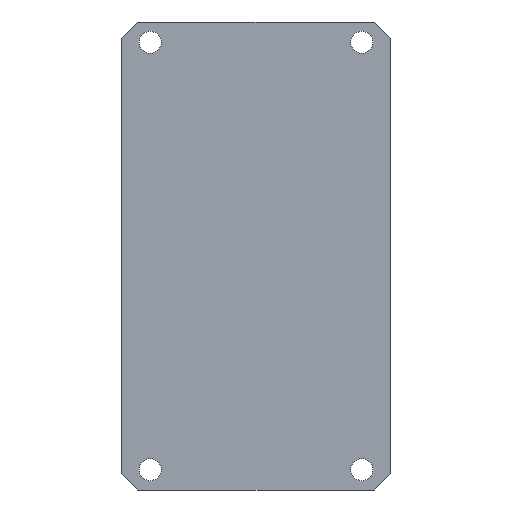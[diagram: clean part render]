
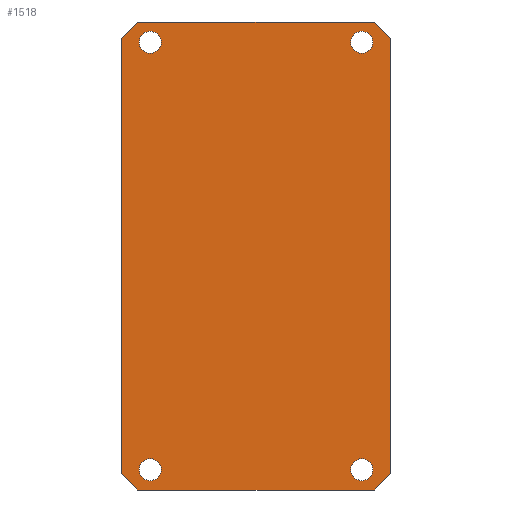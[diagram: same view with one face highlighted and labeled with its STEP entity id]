
A CAD part, front view. The second image highlights one B-rep face of the part: STEP entity #1518.
In plain terms, the highlighted planar face has unit normal (0, -1, 0).
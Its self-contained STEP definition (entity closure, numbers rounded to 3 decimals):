
#34=FACE_BOUND('',#525,.T.);
#35=FACE_BOUND('',#526,.T.);
#36=FACE_BOUND('',#527,.T.);
#37=FACE_BOUND('',#528,.T.);
#66=LINE('',#2228,#242);
#70=LINE('',#2237,#246);
#104=LINE('',#2316,#280);
#105=LINE('',#2319,#281);
#108=LINE('',#2324,#284);
#109=LINE('',#2327,#285);
#110=LINE('',#2328,#286);
#111=LINE('',#2329,#287);
#242=VECTOR('',#1793,10.);
#246=VECTOR('',#1799,10.);
#280=VECTOR('',#1857,10.);
#281=VECTOR('',#1860,10.);
#284=VECTOR('',#1865,10.);
#285=VECTOR('',#1868,10.);
#286=VECTOR('',#1869,10.);
#287=VECTOR('',#1870,10.);
#429=FACE_OUTER_BOUND('',#524,.T.);
#524=EDGE_LOOP('',(#1083,#1084,#1085,#1086,#1087,#1088,#1089,#1090));
#525=EDGE_LOOP('',(#1091));
#526=EDGE_LOOP('',(#1092));
#527=EDGE_LOOP('',(#1093));
#528=EDGE_LOOP('',(#1094));
#602=CIRCLE('',#1625,1.35);
#604=CIRCLE('',#1628,1.35);
#606=CIRCLE('',#1631,1.35);
#608=CIRCLE('',#1634,1.35);
#642=VERTEX_POINT('',#2197);
#644=VERTEX_POINT('',#2203);
#646=VERTEX_POINT('',#2209);
#648=VERTEX_POINT('',#2215);
#651=VERTEX_POINT('',#2222);
#653=VERTEX_POINT('',#2226);
#655=VERTEX_POINT('',#2231);
#657=VERTEX_POINT('',#2235);
#690=VERTEX_POINT('',#2314);
#691=VERTEX_POINT('',#2318);
#692=VERTEX_POINT('',#2322);
#693=VERTEX_POINT('',#2326);
#786=EDGE_CURVE('',#642,#642,#602,.T.);
#789=EDGE_CURVE('',#644,#644,#604,.T.);
#792=EDGE_CURVE('',#646,#646,#606,.T.);
#795=EDGE_CURVE('',#648,#648,#608,.T.);
#801=EDGE_CURVE('',#653,#651,#66,.T.);
#805=EDGE_CURVE('',#657,#655,#70,.T.);
#843=EDGE_CURVE('',#690,#657,#104,.T.);
#844=EDGE_CURVE('',#655,#691,#105,.T.);
#847=EDGE_CURVE('',#692,#653,#108,.T.);
#848=EDGE_CURVE('',#651,#693,#109,.T.);
#849=EDGE_CURVE('',#691,#692,#110,.T.);
#850=EDGE_CURVE('',#693,#690,#111,.T.);
#1083=ORIENTED_EDGE('',*,*,#848,.F.);
#1084=ORIENTED_EDGE('',*,*,#801,.F.);
#1085=ORIENTED_EDGE('',*,*,#847,.F.);
#1086=ORIENTED_EDGE('',*,*,#849,.F.);
#1087=ORIENTED_EDGE('',*,*,#844,.F.);
#1088=ORIENTED_EDGE('',*,*,#805,.F.);
#1089=ORIENTED_EDGE('',*,*,#843,.F.);
#1090=ORIENTED_EDGE('',*,*,#850,.F.);
#1091=ORIENTED_EDGE('',*,*,#792,.T.);
#1092=ORIENTED_EDGE('',*,*,#795,.T.);
#1093=ORIENTED_EDGE('',*,*,#786,.T.);
#1094=ORIENTED_EDGE('',*,*,#789,.T.);
#1440=PLANE('',#1652);
#1518=ADVANCED_FACE('',(#429,#34,#35,#36,#37),#1440,.F.);
#1625=AXIS2_PLACEMENT_3D('',#2198,#1762,#1763);
#1628=AXIS2_PLACEMENT_3D('',#2204,#1769,#1770);
#1631=AXIS2_PLACEMENT_3D('',#2210,#1776,#1777);
#1634=AXIS2_PLACEMENT_3D('',#2216,#1783,#1784);
#1652=AXIS2_PLACEMENT_3D('',#2325,#1866,#1867);
#1762=DIRECTION('center_axis',(0.,1.,0.));
#1763=DIRECTION('ref_axis',(1.,0.,0.));
#1769=DIRECTION('center_axis',(0.,1.,0.));
#1770=DIRECTION('ref_axis',(1.,0.,0.));
#1776=DIRECTION('center_axis',(0.,1.,0.));
#1777=DIRECTION('ref_axis',(1.,0.,0.));
#1783=DIRECTION('center_axis',(0.,1.,0.));
#1784=DIRECTION('ref_axis',(1.,0.,0.));
#1793=DIRECTION('',(-1.,0.,0.));
#1799=DIRECTION('',(1.,0.,0.));
#1857=DIRECTION('',(0.707,0.,0.707));
#1860=DIRECTION('',(0.707,0.,-0.707));
#1865=DIRECTION('',(-0.707,0.,-0.707));
#1866=DIRECTION('center_axis',(0.,1.,0.));
#1867=DIRECTION('ref_axis',(0.,0.,1.));
#1868=DIRECTION('',(-0.707,0.,0.707));
#1869=DIRECTION('',(0.,0.,-1.));
#1870=DIRECTION('',(0.,0.,1.));
#2197=CARTESIAN_POINT('',(-30.85,0.,-2.5));
#2198=CARTESIAN_POINT('Origin',(-29.5,0.,-2.5));
#2203=CARTESIAN_POINT('',(-4.85,0.,-2.5));
#2204=CARTESIAN_POINT('Origin',(-3.5,0.,-2.5));
#2209=CARTESIAN_POINT('',(-30.85,0.,-55.));
#2210=CARTESIAN_POINT('Origin',(-29.5,0.,-55.));
#2215=CARTESIAN_POINT('',(-4.85,0.,-55.));
#2216=CARTESIAN_POINT('Origin',(-3.5,0.,-55.));
#2222=CARTESIAN_POINT('',(-31.,0.,-57.5));
#2226=CARTESIAN_POINT('',(-2.,0.,-57.5));
#2228=CARTESIAN_POINT('',(0.,0.,-57.5));
#2231=CARTESIAN_POINT('',(-2.,0.,0.));
#2235=CARTESIAN_POINT('',(-31.,0.,0.));
#2237=CARTESIAN_POINT('',(-33.,0.,0.));
#2314=CARTESIAN_POINT('',(-33.,0.,-2.));
#2316=CARTESIAN_POINT('',(-35.688,0.,-4.687));
#2318=CARTESIAN_POINT('',(0.,0.,-2.));
#2319=CARTESIAN_POINT('',(2.687,0.,-4.687));
#2322=CARTESIAN_POINT('',(0.,0.,-55.5));
#2324=CARTESIAN_POINT('',(1.438,0.,-54.063));
#2325=CARTESIAN_POINT('Origin',(-16.5,0.,-31.25));
#2326=CARTESIAN_POINT('',(-33.,0.,-55.5));
#2327=CARTESIAN_POINT('',(-34.438,0.,-54.063));
#2328=CARTESIAN_POINT('',(0.,0.,-5.));
#2329=CARTESIAN_POINT('',(-33.,0.,-57.5));
